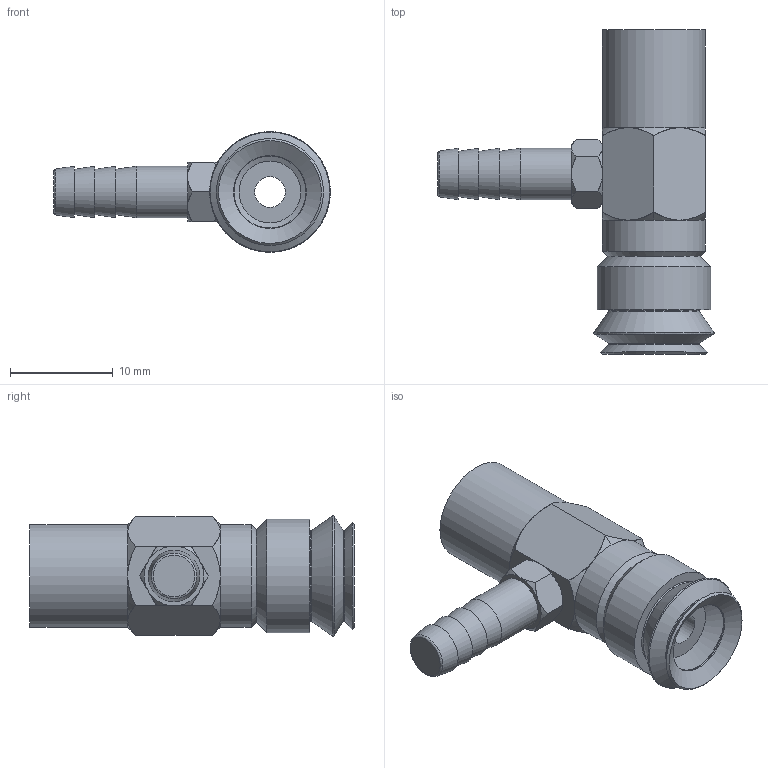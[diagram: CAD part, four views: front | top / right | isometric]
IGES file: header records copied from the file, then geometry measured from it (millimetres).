
Start section: Data from Parasolid IGES Translator 20.0.26, Copyright(c) 2006 Siemens P LM Software. All Rights Reserved.
Global section: file name: PBT-10.igs; native system: By Siemens PLM Incorporated; preprocessor: XPlus GENERIC/IGES 20.0.26; author: Noname; organization: Noname; date: 20190816.095353; units: millimetre
Bounding box: 26.86 x 31.5 x 11.71 mm (x, y, z)
Surface area: 1998.8 mm2 (no closed solid volume)
Topology: 0 solids, 0 shells, 83 faces, 356 edges, 323 vertices
Faces by surface type: revolution 58, extrusion 25
